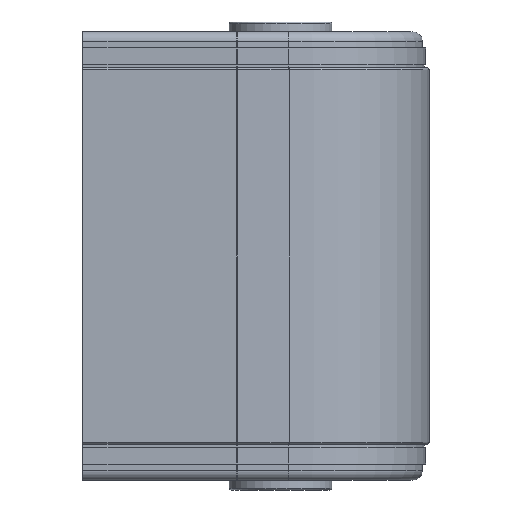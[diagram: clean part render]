
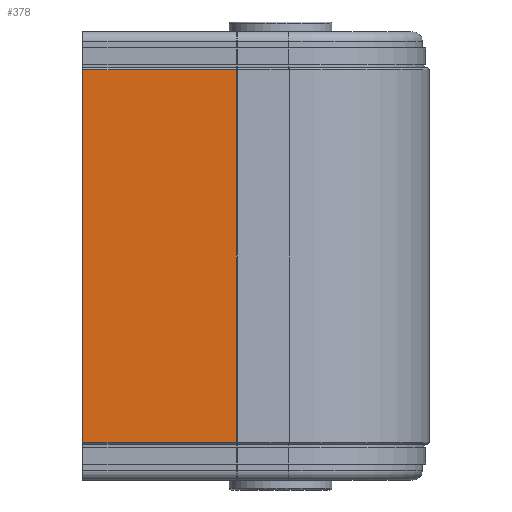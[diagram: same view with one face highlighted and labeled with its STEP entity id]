
A CAD part, front view. The second image highlights one B-rep face of the part: STEP entity #378.
In plain terms, the highlighted planar face has unit normal (0, -1, 0).
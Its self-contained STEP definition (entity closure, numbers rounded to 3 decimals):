
#374 = DIRECTION ( 'NONE',  ( -1., 0., 0. ) ) ;
#378 = ADVANCED_FACE ( 'NONE', ( #4774 ), #5374, .F. ) ;
#435 = ORIENTED_EDGE ( 'NONE', *, *, #2323, .T. ) ;
#591 = ORIENTED_EDGE ( 'NONE', *, *, #3052, .T. ) ;
#1051 = CARTESIAN_POINT ( 'NONE',  ( -22.259, -76.7, -94.25 ) ) ;
#1433 = CARTESIAN_POINT ( 'NONE',  ( -22.259, -76.7, 94.25 ) ) ;
#1591 = CARTESIAN_POINT ( 'NONE',  ( -22.259, -76.7, 94.25 ) ) ;
#2323 = EDGE_CURVE ( 'NONE', #7235, #9699, #9217, .T. ) ;
#2562 = VECTOR ( 'NONE', #7416, 1000. ) ;
#2584 = ORIENTED_EDGE ( 'NONE', *, *, #4449, .F. ) ;
#2797 = ORIENTED_EDGE ( 'NONE', *, *, #9194, .F. ) ;
#2857 = VERTEX_POINT ( 'NONE', #7919 ) ;
#3052 = EDGE_CURVE ( 'NONE', #9699, #2857, #4567, .T. ) ;
#3162 = VECTOR ( 'NONE', #8570, 1000. ) ;
#3815 = VERTEX_POINT ( 'NONE', #9782 ) ;
#3987 = VECTOR ( 'NONE', #6529, 1000. ) ;
#4449 = EDGE_CURVE ( 'NONE', #3815, #2857, #9583, .T. ) ;
#4567 = LINE ( 'NONE', #5036, #2562 ) ;
#4774 = FACE_OUTER_BOUND ( 'NONE', #7062, .T. ) ;
#5036 = CARTESIAN_POINT ( 'NONE',  ( -100., -76.7, 94.25 ) ) ;
#5374 = PLANE ( 'NONE',  #5918 ) ;
#5918 = AXIS2_PLACEMENT_3D ( 'NONE', #1433, #7754, #9324 ) ;
#6529 = DIRECTION ( 'NONE',  ( -1., 0., 0. ) ) ;
#7062 = EDGE_LOOP ( 'NONE', ( #2584, #2797, #435, #591 ) ) ;
#7235 = VERTEX_POINT ( 'NONE', #8012 ) ;
#7299 = CARTESIAN_POINT ( 'NONE',  ( -22.259, -76.7, 94.25 ) ) ;
#7342 = VECTOR ( 'NONE', #374, 1000. ) ;
#7416 = DIRECTION ( 'NONE',  ( 0., 0., -1. ) ) ;
#7754 = DIRECTION ( 'NONE',  ( 0., 1., 0. ) ) ;
#7919 = CARTESIAN_POINT ( 'NONE',  ( -100., -76.7, -94.25 ) ) ;
#8012 = CARTESIAN_POINT ( 'NONE',  ( -22.259, -76.7, 94.25 ) ) ;
#8570 = DIRECTION ( 'NONE',  ( 0., 0., -1. ) ) ;
#8743 = CARTESIAN_POINT ( 'NONE',  ( -100., -76.7, 94.25 ) ) ;
#9194 = EDGE_CURVE ( 'NONE', #7235, #3815, #9246, .T. ) ;
#9217 = LINE ( 'NONE', #7299, #7342 ) ;
#9246 = LINE ( 'NONE', #1591, #3162 ) ;
#9324 = DIRECTION ( 'NONE',  ( -1., 0., 0. ) ) ;
#9583 = LINE ( 'NONE', #1051, #3987 ) ;
#9699 = VERTEX_POINT ( 'NONE', #8743 ) ;
#9782 = CARTESIAN_POINT ( 'NONE',  ( -22.259, -76.7, -94.25 ) ) ;
